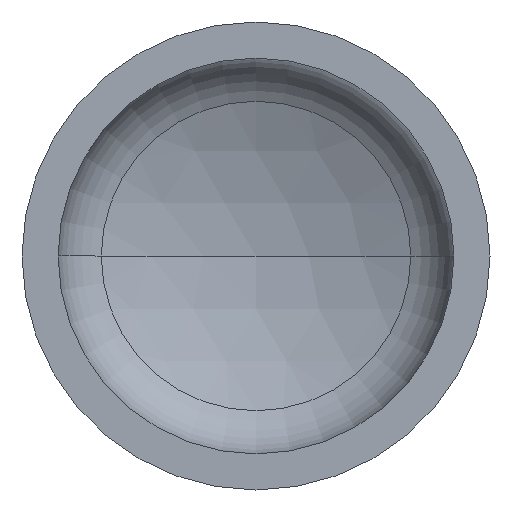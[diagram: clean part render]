
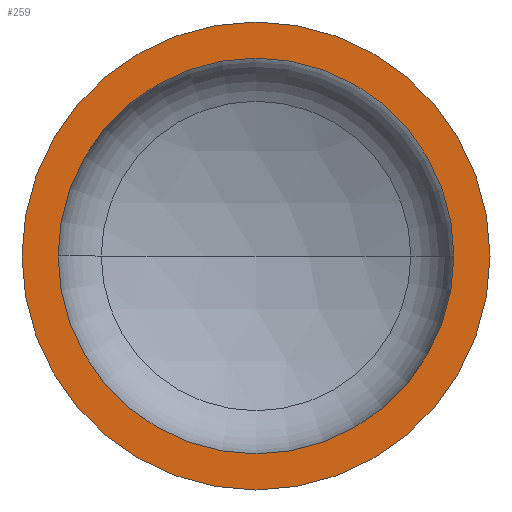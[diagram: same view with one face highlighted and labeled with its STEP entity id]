
A CAD part, front view. The second image highlights one B-rep face of the part: STEP entity #259.
In plain terms, the highlighted planar face has unit normal (0, -1, 0).
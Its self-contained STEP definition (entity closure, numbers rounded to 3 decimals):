
#6 = ORIENTED_EDGE ( 'NONE', *, *, #129, .F. ) ;
#8 = AXIS2_PLACEMENT_3D ( 'NONE', #107, #185, #352 ) ;
#13 = EDGE_LOOP ( 'NONE', ( #103, #34 ) ) ;
#30 = AXIS2_PLACEMENT_3D ( 'NONE', #130, #152, #90 ) ;
#34 = ORIENTED_EDGE ( 'NONE', *, *, #122, .T. ) ;
#35 = VERTEX_POINT ( 'NONE', #385 ) ;
#40 = AXIS2_PLACEMENT_3D ( 'NONE', #205, #52, #398 ) ;
#52 = DIRECTION ( 'NONE',  ( 0., 1., 0. ) ) ;
#61 = VERTEX_POINT ( 'NONE', #258 ) ;
#77 = EDGE_LOOP ( 'NONE', ( #6, #150 ) ) ;
#90 = DIRECTION ( 'NONE',  ( 1., 0., 0. ) ) ;
#97 = AXIS2_PLACEMENT_3D ( 'NONE', #317, #316, #320 ) ;
#98 = AXIS2_PLACEMENT_3D ( 'NONE', #371, #369, #367 ) ;
#103 = ORIENTED_EDGE ( 'NONE', *, *, #387, .T. ) ;
#107 = CARTESIAN_POINT ( 'NONE',  ( 0., 0., 0. ) ) ;
#111 = FACE_BOUND ( 'NONE', #77, .T. ) ;
#122 = EDGE_CURVE ( 'NONE', #124, #61, #375, .T. ) ;
#124 = VERTEX_POINT ( 'NONE', #340 ) ;
#129 = EDGE_CURVE ( 'NONE', #184, #35, #365, .T. ) ;
#130 = CARTESIAN_POINT ( 'NONE',  ( 0., 0., 0. ) ) ;
#150 = ORIENTED_EDGE ( 'NONE', *, *, #363, .F. ) ;
#152 = DIRECTION ( 'NONE',  ( 0., -1., 0. ) ) ;
#184 = VERTEX_POINT ( 'NONE', #253 ) ;
#185 = DIRECTION ( 'NONE',  ( 0., -1., 0. ) ) ;
#205 = CARTESIAN_POINT ( 'NONE',  ( -350., 0., 0. ) ) ;
#206 = FACE_OUTER_BOUND ( 'NONE', #13, .T. ) ;
#239 = CIRCLE ( 'NONE', #8, 350. ) ;
#253 = CARTESIAN_POINT ( 'NONE',  ( 296., 0., 0. ) ) ;
#258 = CARTESIAN_POINT ( 'NONE',  ( 350., 0., 0. ) ) ;
#259 = ADVANCED_FACE ( 'NONE', ( #111, #206 ), #401, .F. ) ;
#314 = CIRCLE ( 'NONE', #30, 296. ) ;
#316 = DIRECTION ( 'NONE',  ( 0., -1., 0. ) ) ;
#317 = CARTESIAN_POINT ( 'NONE',  ( 0., 0., 0. ) ) ;
#320 = DIRECTION ( 'NONE',  ( 1., 0., 0. ) ) ;
#340 = CARTESIAN_POINT ( 'NONE',  ( -350., 0., 0. ) ) ;
#352 = DIRECTION ( 'NONE',  ( 1., 0., 0. ) ) ;
#363 = EDGE_CURVE ( 'NONE', #35, #184, #314, .T. ) ;
#365 = CIRCLE ( 'NONE', #97, 296. ) ;
#367 = DIRECTION ( 'NONE',  ( 1., 0., 0. ) ) ;
#369 = DIRECTION ( 'NONE',  ( 0., -1., 0. ) ) ;
#371 = CARTESIAN_POINT ( 'NONE',  ( 0., 0., 0. ) ) ;
#375 = CIRCLE ( 'NONE', #98, 350. ) ;
#385 = CARTESIAN_POINT ( 'NONE',  ( -296., 0., 0. ) ) ;
#387 = EDGE_CURVE ( 'NONE', #61, #124, #239, .T. ) ;
#398 = DIRECTION ( 'NONE',  ( -1., 0., 0. ) ) ;
#401 = PLANE ( 'NONE',  #40 ) ;
